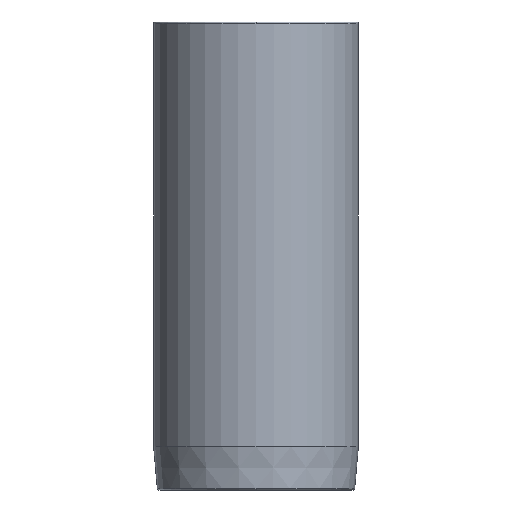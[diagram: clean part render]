
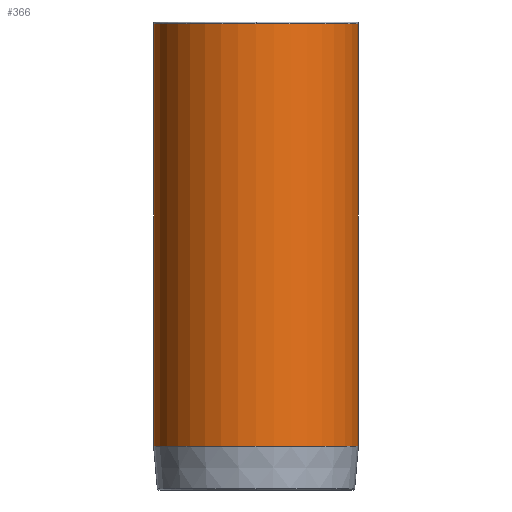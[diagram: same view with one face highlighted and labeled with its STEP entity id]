
A CAD part, front view. The second image highlights one B-rep face of the part: STEP entity #366.
In plain terms, the highlighted cylindrical face has radius 30.625 mm (diameter 61.25 mm), a partial arc.
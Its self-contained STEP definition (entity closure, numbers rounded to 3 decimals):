
#271=CARTESIAN_POINT('',(0.0,-30.625,68.5));
#272=VERTEX_POINT('',#271);
#298=CARTESIAN_POINT('',(-30.625,0.,68.5));
#299=VERTEX_POINT('',#298);
#307=CARTESIAN_POINT('',(0.0,0.,68.5));
#308=DIRECTION('',(0.0,0.0,1.0));
#309=DIRECTION('',(1.0,0.0,0.0));
#310=AXIS2_PLACEMENT_3D('',#307,#308,#309);
#311=CIRCLE('',#310,30.625);
#312=EDGE_CURVE('',#299,#272,#311,.T.);
#317=CARTESIAN_POINT('',(0.0,0.,5.272));
#318=DIRECTION('',(0.0,0.,1.0));
#319=DIRECTION('',(1.0,0.0,0.0));
#320=AXIS2_PLACEMENT_3D('',#317,#318,#319);
#321=CYLINDRICAL_SURFACE('',#320,30.625);
#322=CARTESIAN_POINT('',(30.625,0.,68.5));
#323=VERTEX_POINT('',#322);
#324=CARTESIAN_POINT('',(30.625,0.,-57.956));
#325=VERTEX_POINT('',#324);
#326=CARTESIAN_POINT('',(30.625,0.,68.5));
#327=DIRECTION('',(0.0,0.0,-1.0));
#328=VECTOR('',#327,126.456);
#329=LINE('',#326,#328);
#330=EDGE_CURVE('',#323,#325,#329,.T.);
#331=ORIENTED_EDGE('',*,*,#330,.F.);
#332=CARTESIAN_POINT('',(0.0,0.,68.5));
#333=DIRECTION('',(0.0,0.0,1.0));
#334=DIRECTION('',(1.0,0.0,0.0));
#335=AXIS2_PLACEMENT_3D('',#332,#333,#334);
#336=CIRCLE('',#335,30.625);
#337=EDGE_CURVE('',#272,#323,#336,.T.);
#338=ORIENTED_EDGE('',*,*,#337,.F.);
#339=ORIENTED_EDGE('',*,*,#312,.F.);
#340=CARTESIAN_POINT('',(-30.625,0.,-57.956));
#341=VERTEX_POINT('',#340);
#342=CARTESIAN_POINT('',(-30.625,0.,68.5));
#343=DIRECTION('',(0.0,0.0,-1.0));
#344=VECTOR('',#343,126.456);
#345=LINE('',#342,#344);
#346=EDGE_CURVE('',#299,#341,#345,.T.);
#347=ORIENTED_EDGE('',*,*,#346,.T.);
#348=CARTESIAN_POINT('',(0.0,-30.625,-57.956));
#349=VERTEX_POINT('',#348);
#350=CARTESIAN_POINT('',(0.0,0.,-57.956));
#351=DIRECTION('',(0.0,0.0,1.0));
#352=DIRECTION('',(1.0,0.0,0.0));
#353=AXIS2_PLACEMENT_3D('',#350,#351,#352);
#354=CIRCLE('',#353,30.625);
#355=EDGE_CURVE('',#341,#349,#354,.T.);
#356=ORIENTED_EDGE('',*,*,#355,.T.);
#357=CARTESIAN_POINT('',(0.0,0.,-57.956));
#358=DIRECTION('',(0.0,0.0,1.0));
#359=DIRECTION('',(1.0,0.0,0.0));
#360=AXIS2_PLACEMENT_3D('',#357,#358,#359);
#361=CIRCLE('',#360,30.625);
#362=EDGE_CURVE('',#349,#325,#361,.T.);
#363=ORIENTED_EDGE('',*,*,#362,.T.);
#364=EDGE_LOOP('',(#331,#338,#339,#347,#356,#363));
#365=FACE_OUTER_BOUND('',#364,.T.);
#366=ADVANCED_FACE('',(#365),#321,.T.);
